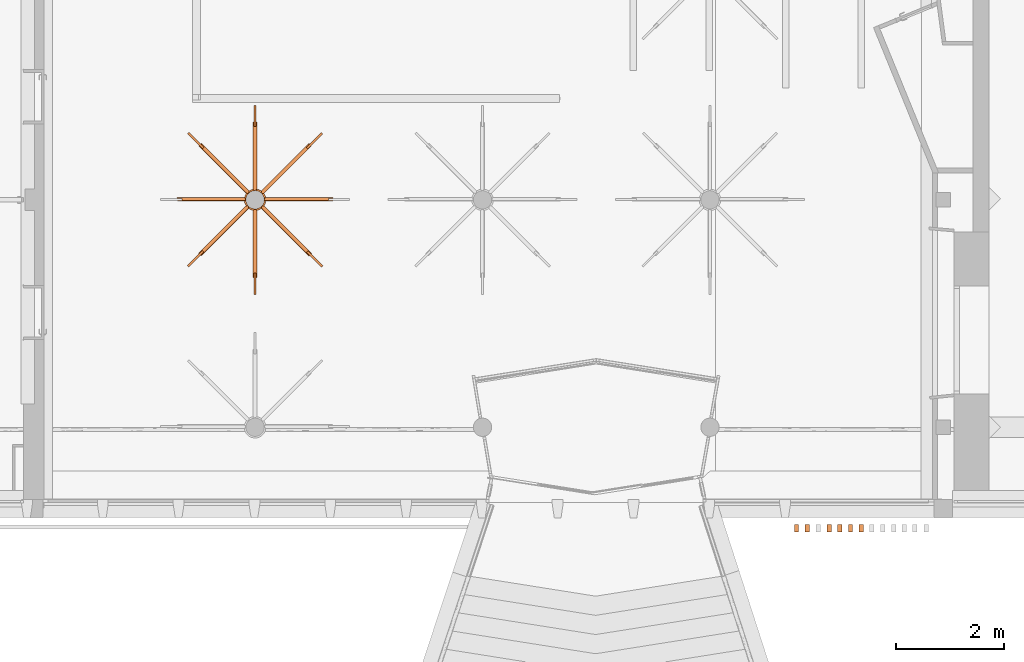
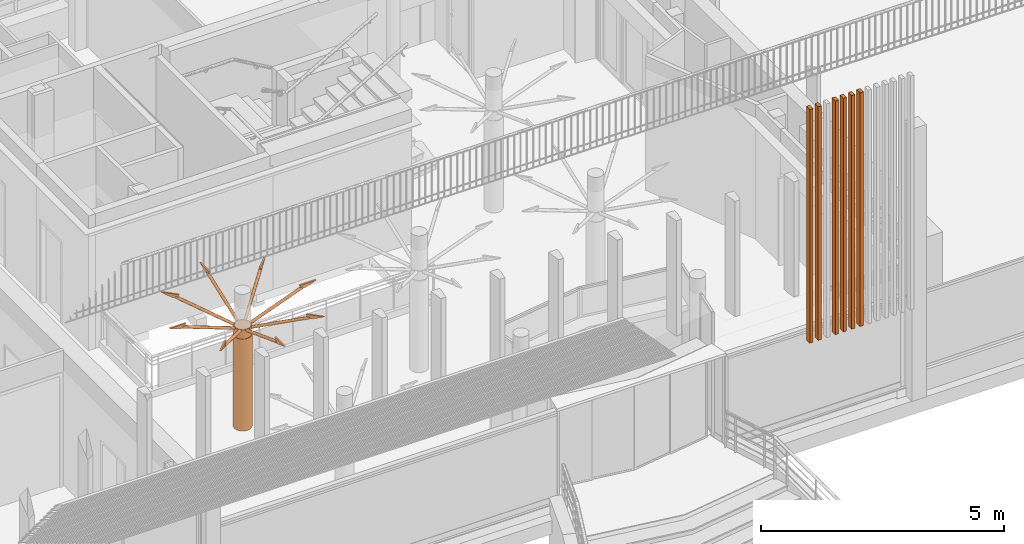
# One storey, part 59 of 65: 7 proxies.
"""IFC4 building model written with IfcOpenShell, lengths in metres."""

from ifc_helpers import new_model, entity, si_unit, converted_unit, derived_unit, direction, frame, origin, place, context, subcontext, project, spatial, indexed_curve, outline, extrude, source, transform, mapped, material, constituent, constituent_set, type_object, type_shapes, element, save


model = new_model("IFC4")

# Units and contexts
model_context = context("Model", 3, precision=1e-05, world=origin(), true_north=direction((6.12303176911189e-17, 1.0)))
body_context = subcontext(model_context, "Body", "Model", "MODEL_VIEW")
ifc_project = project(units=[si_unit("LENGTHUNIT", "METRE"), si_unit("AREAUNIT", "SQUARE_METRE"), si_unit("VOLUMEUNIT", "CUBIC_METRE"), converted_unit("PLANEANGLEUNIT", "DEGREE", entity("IfcRatioMeasure", 0.0174532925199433), si_unit("PLANEANGLEUNIT", "RADIAN"), dimensions=[0, 0, 0, 0, 0, 0, 0]), si_unit("MASSUNIT", "GRAM", prefix="KILO"), derived_unit("MASSDENSITYUNIT", [(si_unit("MASSUNIT", "GRAM", prefix="KILO"), 1), (si_unit("LENGTHUNIT", "METRE"), -3)]), derived_unit("MOMENTOFINERTIAUNIT", [(si_unit("LENGTHUNIT", "METRE"), 4)]), si_unit("TIMEUNIT", "SECOND"), si_unit("FREQUENCYUNIT", "HERTZ"), si_unit("THERMODYNAMICTEMPERATUREUNIT", "DEGREE_CELSIUS"), derived_unit("THERMALTRANSMITTANCEUNIT", [(si_unit("MASSUNIT", "GRAM", prefix="KILO"), 1), (si_unit("THERMODYNAMICTEMPERATUREUNIT", "KELVIN"), -1), (si_unit("TIMEUNIT", "SECOND"), -3)]), derived_unit("VOLUMETRICFLOWRATEUNIT", [(si_unit("LENGTHUNIT", "METRE"), 3), (si_unit("TIMEUNIT", "SECOND"), -1)]), si_unit("ELECTRICCURRENTUNIT", "AMPERE"), si_unit("ELECTRICVOLTAGEUNIT", "VOLT"), si_unit("POWERUNIT", "WATT"), si_unit("FORCEUNIT", "NEWTON", prefix="KILO"), si_unit("ILLUMINANCEUNIT", "LUX"), si_unit("LUMINOUSFLUXUNIT", "LUMEN"), si_unit("LUMINOUSINTENSITYUNIT", "CANDELA"), derived_unit("USERDEFINED", [(si_unit("MASSUNIT", "GRAM", prefix="KILO"), -1), (si_unit("LENGTHUNIT", "METRE"), -2), (si_unit("TIMEUNIT", "SECOND"), 3), (si_unit("LUMINOUSFLUXUNIT", "LUMEN"), 1)]), derived_unit("LINEARVELOCITYUNIT", [(si_unit("LENGTHUNIT", "METRE"), 1), (si_unit("TIMEUNIT", "SECOND"), -1)]), si_unit("PRESSUREUNIT", "PASCAL"), derived_unit("USERDEFINED", [(si_unit("LENGTHUNIT", "METRE"), -2), (si_unit("MASSUNIT", "GRAM", prefix="KILO"), 1), (si_unit("TIMEUNIT", "SECOND"), -2)]), derived_unit("LINEARFORCEUNIT", [(si_unit("MASSUNIT", "GRAM", prefix="KILO"), 1), (si_unit("LENGTHUNIT", "METRE"), 1), (si_unit("TIMEUNIT", "SECOND"), -2), (si_unit("LENGTHUNIT", "METRE"), -1)]), derived_unit("PLANARFORCEUNIT", [(si_unit("MASSUNIT", "GRAM", prefix="KILO"), 1), (si_unit("LENGTHUNIT", "METRE"), 1), (si_unit("TIMEUNIT", "SECOND"), -2), (si_unit("LENGTHUNIT", "METRE"), -2)])], contexts=[model_context])

# Site, building, storey
site_placement = place(None, origin())
site = spatial("IfcSite", under=ifc_project, at=site_placement, Name="Default", CompositionType="ELEMENT")
building_placement = place(site_placement, origin())
building = spatial("IfcBuilding", under=site, at=building_placement, Name="HOTEL CONSULAIRE BOULOGNE SUR MER", CompositionType="ELEMENT")
storey_placement = place(building_placement, origin())
storey = spatial("IfcBuildingStorey", under=building, at=storey_placement, Name="Niveau 0", CompositionType="ELEMENT", Elevation=1.31981936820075e-13)

# Proxies
ifc_material_1 = material(Name="Bronze", Category="Métal")
ifc_constituent_1 = constituent(ifc_material_1, Name="Bronze", Category="Matériaux")
ifc_material_2 = material(Name="Acier, carbone", Category="Métal")
ifc_constituent_2 = constituent(ifc_material_2, Name="Acier, carbone", Category="Matériaux")
ifc_constituent_set = constituent_set(constituents=[ifc_constituent_1, ifc_constituent_2], Name="MaterialConstituentSet")
building_element_proxy_type_1 = type_object("IfcBuildingElementProxyType", Name="Modèles génériques 1:Modèles génériques 1", PredefinedType="NOTDEFINED", material=ifc_material_1)
shared_shape_1 = source(origin(), body_context, "Body", "SweptSolid", [
    extrude(outline(indexed_curve([(-0.277248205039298, -0.059776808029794), (0.115160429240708, -0.059776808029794), (0.0851913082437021, 0.0182954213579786), (0.0431801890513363, 0.00216886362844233), (0.0317934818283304, 0.0318322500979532), (0.00544099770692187, 0.0219587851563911), (-0.00351820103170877, 0.0452982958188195), (-0.277248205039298, -0.059776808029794)], self_intersect=False)), frame((0.713250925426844, 0.701500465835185, 2.99602341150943), z_axis=(-0.70710678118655, 0.707106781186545, 0.0), x_axis=(0.707106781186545, 0.70710678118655, 0.0)), (0.0, 0.0, 1.0), 0.03781952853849),
    extrude(outline(indexed_curve([(0.035, -1.04985600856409e-15), (0.0332869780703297, 0.0108155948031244), (0.028315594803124, 0.0205724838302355), (0.0205724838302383, 0.0283155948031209), (0.0108155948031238, 0.0332869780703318), (1.1197790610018e-15, 0.0350000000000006), (-0.0108155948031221, 0.0332869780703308), (-0.0205724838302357, 0.028315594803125), (-0.0283155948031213, 0.0205724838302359), (-0.0332869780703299, 0.0108155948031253), (-0.0349999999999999, 1.43372394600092e-15), (-0.0332869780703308, -0.0108155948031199), (-0.028315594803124, -0.0205724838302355), (-0.0205724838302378, -0.0283155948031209), (-0.0108155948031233, -0.0332869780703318), (-6.12763902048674e-16, -0.0350000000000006), (0.0108155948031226, -0.0332869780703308), (0.0205724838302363, -0.0283155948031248), (0.0283155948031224, -0.0205724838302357), (0.0332869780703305, -0.0108155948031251), (0.035, -1.04985600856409e-15)], self_intersect=False)), frame((0.728885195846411, 0.739260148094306, 2.98010318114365), z_axis=(0.662156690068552, 0.662156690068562, -0.350851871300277), x_axis=(-0.248089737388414, -0.248089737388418, -0.936430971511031)), (0.0, 0.0, 1.0), 1.32737404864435),
    extrude(outline(indexed_curve([(-0.280255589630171, -0.0435504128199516), (0.0129489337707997, -0.0435504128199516), (0.0129489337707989, -0.0185504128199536), (0.0410894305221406, -0.018324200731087), (0.0410894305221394, 0.0134495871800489), (0.0860894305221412, 0.013449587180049), (0.0860894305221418, 0.0970762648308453), (-0.280255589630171, -0.0435504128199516)], self_intersect=False)), frame((1.7274101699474, 0.277248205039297, 2.99602341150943), z_axis=(1.0, 0.0, 0.0), x_axis=(0.0, 0.933580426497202, -0.358367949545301)), (0.0, 0.0, 1.0), 0.0378195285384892),
    extrude(outline(indexed_curve([(0.0349999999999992, 8.67182975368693e-17), (0.0332869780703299, 0.0108155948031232), (0.0283155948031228, 0.0205724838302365), (0.0205724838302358, 0.0283155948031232), (0.0108155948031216, 0.0332869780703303), (-5.93728164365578e-16, 0.035), (-0.0108155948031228, 0.0332869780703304), (-0.0205724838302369, 0.0283155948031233), (-0.0283155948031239, 0.0205724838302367), (-0.0332869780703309, 0.0108155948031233), (-0.0349999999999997, 1.83998484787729e-16), (-0.0332869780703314, -0.0108155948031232), (-0.0283155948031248, -0.0205724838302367), (-0.0205724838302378, -0.0283155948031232), (-0.0108155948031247, -0.0332869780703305), (-9.27317312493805e-16, -0.0349999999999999), (0.0108155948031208, -0.0332869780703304), (0.0205724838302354, -0.0283155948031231), (0.0283155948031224, -0.0205724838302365), (0.0332869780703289, -0.010815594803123), (0.0349999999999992, 8.67182975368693e-17)], self_intersect=False)), frame((1.74305519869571, 1.5579976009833, 2.51439151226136), z_axis=(0.0, -0.936430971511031, 0.350851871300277), x_axis=(0.0, -0.350851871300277, -0.936430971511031)), (0.0, 0.0, 1.0), 1.32737404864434),
    extrude(outline(indexed_curve([(-0.280255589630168, -0.0435504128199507), (0.0129489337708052, -0.0435504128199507), (0.0129489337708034, -0.0185504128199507), (0.0410894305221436, -0.0183242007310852), (0.0410894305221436, 0.0134495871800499), (0.0860894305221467, 0.0134495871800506), (0.0860894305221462, 0.097076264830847), (-0.280255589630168, -0.0435504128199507)], self_intersect=False)), frame((2.77607438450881, 0.699368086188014, 2.99602341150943), z_axis=(0.707106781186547, 0.707106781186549, 0.0), x_axis=(-0.6601410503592, 0.660141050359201, -0.358367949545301)), (0.0, 0.0, 1.0), 0.03781952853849),
    extrude(outline(indexed_curve([(0.035, -1.04985600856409e-15), (0.033286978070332, 0.0108155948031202), (0.028315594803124, 0.0205724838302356), (0.0205724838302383, 0.028315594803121), (0.0108155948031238, 0.0332869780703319), (1.186400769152e-15, 0.0350000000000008), (-0.0108155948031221, 0.033286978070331), (-0.0205724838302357, 0.028315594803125), (-0.0283155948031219, 0.0205724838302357), (-0.0332869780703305, 0.0108155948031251), (-0.0349999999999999, 1.43372394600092e-15), (-0.0332869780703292, -0.0108155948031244), (-0.0283155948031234, -0.0205724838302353), (-0.0205724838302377, -0.0283155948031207), (-0.0108155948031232, -0.0332869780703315), (-5.45084706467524e-16, -0.0350000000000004), (0.0108155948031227, -0.0332869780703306), (0.0205724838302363, -0.0283155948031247), (0.0283155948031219, -0.0205724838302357), (0.0332869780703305, -0.0108155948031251), (0.035, -1.04985600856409e-15)], self_intersect=False)), frame((1.88151050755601, 1.61605737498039, 2.51439151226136), z_axis=(0.662156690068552, -0.662156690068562, 0.350851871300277), x_axis=(0.248089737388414, -0.248089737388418, -0.936430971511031)), (0.0, 0.0, 1.0), 1.32737404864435),
    extrude(outline(indexed_curve([(-0.277248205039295, -0.0597768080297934), (0.115160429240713, -0.0597768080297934), (0.0851913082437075, 0.0182954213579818), (0.0431801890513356, 0.00216886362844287), (0.031793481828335, 0.0318322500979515), (0.00544099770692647, 0.02195878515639), (-0.00351820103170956, 0.0452982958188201), (-0.277248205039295, -0.0597768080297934)], self_intersect=False)), frame((2.77184292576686, 2.7963210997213, 2.99602341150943), z_axis=(0.707106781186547, -0.707106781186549, 0.0), x_axis=(-0.707106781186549, -0.707106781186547, 0.0)), (0.0, 0.0, 1.0), 0.0378195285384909),
    extrude(outline(indexed_curve([(0.035, 1.16429366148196e-15), (0.03328697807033, 0.0108155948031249), (0.0283155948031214, 0.0205724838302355), (0.0205724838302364, 0.0283155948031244), (0.0108155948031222, 0.0332869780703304), (-1.00451293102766e-15, 0.0350000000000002), (-0.0108155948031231, 0.0332869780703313), (-0.0205724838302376, 0.0283155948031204), (-0.0283155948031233, 0.0205724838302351), (-0.0332869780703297, 0.0108155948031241), (-0.0349999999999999, -1.26052501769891e-15), (-0.03328697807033, -0.0108155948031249), (-0.028315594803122, -0.0205724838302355), (-0.0205724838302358, -0.0283155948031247), (-0.0108155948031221, -0.0332869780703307), (1.10497423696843e-15, -0.0350000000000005), (0.0108155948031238, -0.0332869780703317), (0.0205724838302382, -0.0283155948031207), (0.0283155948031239, -0.0205724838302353), (0.0332869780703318, -0.0108155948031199), (0.035, 1.16429366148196e-15)], self_intersect=False)), frame((1.87727904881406, 1.87963181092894, 2.51439151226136), z_axis=(0.662156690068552, 0.662156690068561, 0.350851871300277), x_axis=(0.248089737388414, 0.248089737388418, -0.936430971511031)), (0.0, 0.0, 1.0), 1.32737404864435),
    extrude(outline(indexed_curve([(-0.277248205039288, -0.0597768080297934), (0.115160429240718, -0.0597768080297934), (0.0851913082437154, 0.0182954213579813), (0.0431801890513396, 0.00216886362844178), (0.0317934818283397, 0.0318322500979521), (0.0054409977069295, 0.0219587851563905), (-0.00351820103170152, 0.045298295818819), (-0.277248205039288, -0.0597768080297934)], self_intersect=False)), frame((1.72741016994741, 3.21418715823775, 2.99602341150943), z_axis=(1.0, 0.0, 0.0), x_axis=(0.0, -1.0, 0.0)), (0.0, 0.0, 1.0), 0.0378195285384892),
    extrude(outline(indexed_curve([(0.0349999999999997, -6.68832189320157e-17), (0.0332869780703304, 0.010815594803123), (0.0283155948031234, 0.0205724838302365), (0.0205724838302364, 0.0283155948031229), (0.0108155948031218, 0.0332869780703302), (6.68779268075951e-17, 0.0349999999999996), (-0.0108155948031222, 0.0332869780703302), (-0.0205724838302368, 0.0283155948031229), (-0.0283155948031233, 0.0205724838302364), (-0.0332869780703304, 0.0108155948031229), (-0.0349999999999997, -2.03833563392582e-16), (-0.0332869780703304, -0.0108155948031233), (-0.0283155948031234, -0.0205724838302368), (-0.0205724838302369, -0.0283155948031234), (-0.0108155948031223, -0.0332869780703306), (-6.68779268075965e-17, -0.0350000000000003), (0.0108155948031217, -0.0332869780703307), (0.0205724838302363, -0.0283155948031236), (0.0283155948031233, -0.0205724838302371), (0.0332869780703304, -0.0108155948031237), (0.0349999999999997, -6.68832189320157e-17)], self_intersect=False)), frame((1.74305519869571, 1.93343776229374, 2.51439151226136), z_axis=(0.0, 0.936430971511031, 0.350851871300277), x_axis=(0.0, 0.350851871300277, -0.936430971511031)), (0.0, 0.0, 1.0), 1.32737404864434),
    extrude(outline(indexed_curve([(-0.277248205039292, -0.059776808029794), (0.115160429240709, -0.059776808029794), (0.0851913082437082, 0.0182954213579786), (0.0431801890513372, 0.00216886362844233), (0.0317934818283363, 0.0318322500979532), (0.005440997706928, 0.0219587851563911), (-0.00351820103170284, 0.0452982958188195), (-0.277248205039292, -0.059776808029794)], self_intersect=False)), frame((0.694971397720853, 2.77170009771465, 2.99602341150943), z_axis=(0.707106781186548, 0.707106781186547, 0.0), x_axis=(0.707106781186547, -0.707106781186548, 0.0)), (0.0, 0.0, 1.0), 0.0378195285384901),
    extrude(outline(indexed_curve([(0.0349999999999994, -1.22011148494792e-15), (0.0332869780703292, 0.0108155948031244), (0.028315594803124, 0.0205724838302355), (0.0205724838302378, 0.0283155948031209), (0.0108155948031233, 0.0332869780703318), (5.94786615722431e-16, 0.0350000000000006), (-0.0108155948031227, 0.0332869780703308), (-0.0205724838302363, 0.0283155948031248), (-0.0283155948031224, 0.0205724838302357), (-0.0332869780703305, 0.0108155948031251), (-0.0350000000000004, 1.22011148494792e-15), (-0.0332869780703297, -0.0108155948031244), (-0.0283155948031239, -0.0205724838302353), (-0.0205724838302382, -0.0283155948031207), (-0.0108155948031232, -0.0332869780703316), (-1.10180177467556e-15, -0.0350000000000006), (0.0108155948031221, -0.0332869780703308), (0.0205724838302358, -0.0283155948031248), (0.0283155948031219, -0.0205724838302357), (0.03328697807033, -0.0108155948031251), (0.0349999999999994, -1.22011148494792e-15)], self_intersect=False)), frame((1.6162777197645, 1.88175325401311, 2.51439151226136), z_axis=(-0.662156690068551, 0.662156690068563, 0.350851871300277), x_axis=(-0.248089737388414, 0.248089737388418, -0.936430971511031)), (0.0, 0.0, 1.0), 1.32737404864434),
    extrude(outline(indexed_curve([(-0.280255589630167, -0.0435504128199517), (0.0129489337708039, -0.0435504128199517), (0.0129489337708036, -0.0185504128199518), (0.0410894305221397, -0.0183242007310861), (0.0410894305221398, 0.013449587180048), (0.0860894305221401, 0.0134495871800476), (0.0860894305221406, 0.0970762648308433), (-0.280255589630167, -0.0435504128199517)], self_intersect=False)), frame((3.21418736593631, 1.73554318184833, 2.99602341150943), z_axis=(0.0, 1.0, 0.0), x_axis=(-0.933580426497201, 0.0, -0.358367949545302)), (0.0, 0.0, 1.0), 0.0378195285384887),
    extrude(outline(indexed_curve([(0.0349999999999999, -4.16541532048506e-17), (0.0332869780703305, 0.0108155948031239), (0.0283155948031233, 0.0205724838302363), (0.0205724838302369, 0.0283155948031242), (0.0108155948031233, 0.0332869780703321), (-5.83659163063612e-18, 0.0350000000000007), (-0.0108155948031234, 0.0332869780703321), (-0.0205724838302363, 0.0283155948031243), (-0.0283155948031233, 0.0205724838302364), (-0.0332869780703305, 0.0108155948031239), (-0.0349999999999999, 4.16541532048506e-17), (-0.0332869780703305, -0.0108155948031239), (-0.0283155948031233, -0.0205724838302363), (-0.0205724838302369, -0.0283155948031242), (-0.0108155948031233, -0.0332869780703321), (5.83659163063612e-18, -0.0350000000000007), (0.0108155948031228, -0.0332869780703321), (0.0205724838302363, -0.0283155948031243), (0.0283155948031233, -0.0205724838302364), (0.0332869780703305, -0.0108155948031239), (0.0349999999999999, -4.16541532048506e-17)], self_intersect=False)), frame((1.93343796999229, 1.75771768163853, 2.51439151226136), z_axis=(0.936430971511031, 0.0, 0.350851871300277), x_axis=(0.350851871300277, 0.0, -0.936430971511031)), (0.0, 0.0, 1.0), 1.32737404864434),
    extrude(outline(indexed_curve([(-0.277248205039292, -0.059776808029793), (0.115160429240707, -0.059776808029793), (0.0851913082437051, 0.0182954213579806), (0.0431801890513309, 0.00216886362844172), (0.0317934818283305, 0.0318322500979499), (0.00544099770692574, 0.0219587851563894), (-0.00351820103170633, 0.0452982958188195), (-0.277248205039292, -0.059776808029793)], self_intersect=False)), frame((0.277248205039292, 1.73554318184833, 2.99602341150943), z_axis=(0.0, 1.0, 0.0), x_axis=(1.0, 0.0, 0.0)), (0.0, 0.0, 1.0), 0.0378195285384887),
    extrude(outline(indexed_curve([(0.0349999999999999, 4.16541532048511e-17), (0.0332869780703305, 0.0108155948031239), (0.0283155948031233, 0.0205724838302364), (0.0205724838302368, 0.0283155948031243), (0.0108155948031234, 0.0332869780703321), (5.33273364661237e-17, 0.0350000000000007), (-0.0108155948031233, 0.0332869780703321), (-0.0205724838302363, 0.0283155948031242), (-0.0283155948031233, 0.0205724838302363), (-0.0332869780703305, 0.0108155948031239), (-0.0349999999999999, -4.16541532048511e-17), (-0.0332869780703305, -0.0108155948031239), (-0.0283155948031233, -0.0205724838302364), (-0.0205724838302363, -0.0283155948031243), (-0.0108155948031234, -0.0332869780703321), (4.16541532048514e-17, -0.0350000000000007), (0.0108155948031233, -0.0332869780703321), (0.0205724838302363, -0.0283155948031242), (0.0283155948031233, -0.0205724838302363), (0.0332869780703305, -0.0108155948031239), (0.0349999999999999, 4.16541532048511e-17)], self_intersect=False)), frame((1.55799760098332, 1.75771768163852, 2.51439151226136), z_axis=(-0.936430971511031, 0.0, 0.350851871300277), x_axis=(-0.350851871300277, 0.0, -0.936430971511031)), (0.0, 0.0, 1.0), 1.32737404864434),
    extrude(outline(indexed_curve([(0.199999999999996, 0.0), (0.190211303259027, 0.0618033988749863), (0.161803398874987, 0.11755705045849), (0.117557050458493, 0.161803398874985), (0.0618033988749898, 0.190211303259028), (2.16573425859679e-15, 0.199999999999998), (-0.0618033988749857, 0.190211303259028), (-0.11755705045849, 0.16180339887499), (-0.161803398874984, 0.117557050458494), (-0.190211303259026, 0.0618033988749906), (-0.199999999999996, 4.33146851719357e-15), (-0.190211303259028, -0.0618033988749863), (-0.161803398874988, -0.11755705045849), (-0.117557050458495, -0.161803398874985), (-0.0618033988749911, -0.190211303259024), (-2.97788460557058e-15, -0.199999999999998), (0.0618033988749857, -0.190211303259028), (0.11755705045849, -0.161803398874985), (0.161803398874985, -0.117557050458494), (0.190211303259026, -0.0618033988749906), (0.199999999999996, 0.0)], self_intersect=False), holes=[indexed_curve([(-0.169999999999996, 0.0), (-0.161679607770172, 0.0525328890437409), (-0.137532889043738, 0.0999234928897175), (-0.0999234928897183, 0.137532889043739), (-0.0525328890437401, 0.161679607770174), (-5.41433564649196e-16, 0.169999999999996), (0.0525328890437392, 0.161679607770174), (0.0999234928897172, 0.137532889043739), (0.137532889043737, 0.0999234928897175), (0.161679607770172, 0.0525328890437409), (0.169999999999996, 0.0), (0.161679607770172, -0.0525328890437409), (0.137532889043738, -0.0999234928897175), (0.0999234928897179, -0.137532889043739), (0.0525328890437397, -0.161679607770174), (0.0, -0.169999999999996), (-0.0525328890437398, -0.161679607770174), (-0.0999234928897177, -0.137532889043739), (-0.137532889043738, -0.0999234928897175), (-0.161679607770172, -0.0525328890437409), (-0.169999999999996, 0.0)], self_intersect=False)]), frame((1.74571778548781, 1.74571768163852, 2.46815840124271)), (0.0, 0.0, 1.0), 0.073394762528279),
    extrude(outline(indexed_curve([(-0.184999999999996, 0.0), (-0.175945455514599, -0.0571681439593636), (-0.149668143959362, -0.108740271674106), (-0.108740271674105, -0.14966814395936), (-0.0571681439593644, -0.175945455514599), (-8.12150346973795e-16, -0.184999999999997), (0.0571681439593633, -0.175945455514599), (0.108740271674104, -0.149668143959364), (0.149668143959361, -0.108740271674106), (0.175945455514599, -0.0571681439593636), (0.184999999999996, 0.0), (0.175945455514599, 0.0571681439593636), (0.149668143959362, 0.108740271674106), (0.108740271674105, 0.14966814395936), (0.057168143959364, 0.175945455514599), (0.0, 0.184999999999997), (-0.0571681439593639, 0.175945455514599), (-0.108740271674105, 0.14966814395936), (-0.149668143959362, 0.108740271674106), (-0.175945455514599, 0.0571681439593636), (-0.184999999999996, 0.0)], self_intersect=False), holes=[indexed_curve([(0.169999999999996, 0.0), (0.161679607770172, -0.0525328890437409), (0.137532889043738, -0.0999234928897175), (0.0999234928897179, -0.137532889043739), (0.0525328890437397, -0.161679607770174), (0.0, -0.169999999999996), (-0.0525328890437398, -0.161679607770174), (-0.0999234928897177, -0.137532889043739), (-0.137532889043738, -0.0999234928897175), (-0.161679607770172, -0.0525328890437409), (-0.169999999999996, 0.0), (-0.161679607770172, 0.0525328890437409), (-0.137532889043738, 0.0999234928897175), (-0.0999234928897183, 0.137532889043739), (-0.0525328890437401, 0.161679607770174), (-5.41433564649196e-16, 0.169999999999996), (0.0525328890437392, 0.161679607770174), (0.0999234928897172, 0.137532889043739), (0.137532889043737, 0.0999234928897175), (0.161679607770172, 0.0525328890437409), (0.169999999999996, 0.0)], self_intersect=False)]), frame((1.74571778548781, 1.74571768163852, 2.31091744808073)), (0.0, 0.0, 1.0), 0.15724095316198),
    extrude(outline(indexed_curve([(0.199999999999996, 0.0), (0.190211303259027, 0.0618033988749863), (0.161803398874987, 0.11755705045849), (0.117557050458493, 0.161803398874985), (0.0618033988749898, 0.190211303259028), (2.16573425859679e-15, 0.199999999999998), (-0.0618033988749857, 0.190211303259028), (-0.11755705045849, 0.16180339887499), (-0.161803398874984, 0.117557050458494), (-0.190211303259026, 0.0618033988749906), (-0.199999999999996, 4.33146851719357e-15), (-0.190211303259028, -0.0618033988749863), (-0.161803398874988, -0.11755705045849), (-0.117557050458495, -0.161803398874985), (-0.0618033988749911, -0.190211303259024), (-2.97788460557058e-15, -0.199999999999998), (0.0618033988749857, -0.190211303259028), (0.11755705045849, -0.161803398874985), (0.161803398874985, -0.117557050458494), (0.190211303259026, -0.0618033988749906), (0.199999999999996, 0.0)], self_intersect=False), holes=[indexed_curve([(-0.169999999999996, 0.0), (-0.161679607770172, 0.0525328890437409), (-0.137532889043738, 0.0999234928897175), (-0.0999234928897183, 0.137532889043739), (-0.0525328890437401, 0.161679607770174), (-5.41433564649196e-16, 0.169999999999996), (0.0525328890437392, 0.161679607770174), (0.0999234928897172, 0.137532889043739), (0.137532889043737, 0.0999234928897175), (0.161679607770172, 0.0525328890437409), (0.169999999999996, 0.0), (0.161679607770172, -0.0525328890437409), (0.137532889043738, -0.0999234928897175), (0.0999234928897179, -0.137532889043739), (0.0525328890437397, -0.161679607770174), (0.0, -0.169999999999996), (-0.0525328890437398, -0.161679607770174), (-0.0999234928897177, -0.137532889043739), (-0.137532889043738, -0.0999234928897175), (-0.161679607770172, -0.0525328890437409), (-0.169999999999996, 0.0)], self_intersect=False)]), frame((1.74571778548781, 1.74571768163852, 0.0)), (0.0, 0.0, 1.0), 2.31091744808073),
])
type_shapes(building_element_proxy_type_1, [shared_shape_1])
proxy_1_placement = place(storey_placement, frame((-2.97454101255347, -25.7616274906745, 0.0)))
element("IfcBuildingElementProxy", 1, at=proxy_1_placement, inside=storey, type_object=building_element_proxy_type_1, material=ifc_constituent_set, Name="Modèles génériques 1:Modèles génériques 1", ObjectType="Modèles génériques 1:Modèles génériques 1", PredefinedType="NOTDEFINED", context=body_context, shape_type="MappedRepresentation", body=[
    mapped(shared_shape_1, transform((0.0, 0.0, 0.0), scale=1.0)),
])
ifc_material_3 = material(Name="alu finifion bleu")
building_element_proxy_type_2 = type_object("IfcBuildingElementProxyType", Name="Elements de façade6:Elements de façade", PredefinedType="NOTDEFINED", material=ifc_material_3)
shared_shape_2 = source(origin(), body_context, "Body", "SweptSolid", [
    extrude(outline(indexed_curve([(-0.068901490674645, -0.0402906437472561), (0.0689014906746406, -0.0402906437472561), (0.0689014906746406, 0.0402906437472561), (-0.068901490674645, 0.0402906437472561), (-0.068901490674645, -0.0402906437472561)], self_intersect=False)), frame((0.0402906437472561, 0.0689014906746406, 0.0), z_axis=(0.0, 0.0, 1.0), x_axis=(0.0, 1.0, 0.0)), (0.0, 0.0, 1.0), 5.87944355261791),
])
type_shapes(building_element_proxy_type_2, [shared_shape_2])
proxy_2_placement = place(storey_placement, frame((9.9247575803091, -30.1470920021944, 2.30326010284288)))
element("IfcBuildingElementProxy", 2, at=proxy_2_placement, inside=storey, type_object=building_element_proxy_type_2, material=ifc_material_3, Name="Elements de façade6:Elements de façade", ObjectType="Elements de façade6:Elements de façade", PredefinedType="NOTDEFINED", context=body_context, shape_type="MappedRepresentation", body=[
    mapped(shared_shape_2, transform((0.0, 0.0, 0.0), scale=1.0)),
])
building_element_proxy_type_3 = type_object("IfcBuildingElementProxyType", Name="Elements de façade7:Elements de façade", PredefinedType="NOTDEFINED", material=ifc_material_3)
shared_shape_3 = source(origin(), body_context, "Body", "SweptSolid", [
    extrude(outline(indexed_curve([(-0.068901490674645, -0.0402906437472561), (0.0689014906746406, -0.0402906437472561), (0.0689014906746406, 0.0402906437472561), (-0.068901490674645, 0.0402906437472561), (-0.068901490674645, -0.0402906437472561)], self_intersect=False)), frame((0.0402906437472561, 0.0689014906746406, 0.0), z_axis=(0.0, 0.0, 1.0), x_axis=(0.0, 1.0, 0.0)), (0.0, 0.0, 1.0), 5.87944355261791),
])
type_shapes(building_element_proxy_type_3, [shared_shape_3])
proxy_3_placement = place(storey_placement, frame((9.7257575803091, -30.1470920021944, 2.30326010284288)))
element("IfcBuildingElementProxy", 3, at=proxy_3_placement, inside=storey, type_object=building_element_proxy_type_3, material=ifc_material_3, Name="Elements de façade7:Elements de façade", ObjectType="Elements de façade7:Elements de façade", PredefinedType="NOTDEFINED", context=body_context, shape_type="MappedRepresentation", body=[
    mapped(shared_shape_3, transform((0.0, 0.0, 0.0), scale=1.0)),
])
building_element_proxy_type_4 = type_object("IfcBuildingElementProxyType", Name="Elements de façade8:Elements de façade", PredefinedType="NOTDEFINED", material=ifc_material_3)
shared_shape_4 = source(origin(), body_context, "Body", "SweptSolid", [
    extrude(outline(indexed_curve([(-0.068901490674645, -0.0402906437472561), (0.0689014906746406, -0.0402906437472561), (0.0689014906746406, 0.0402906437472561), (-0.068901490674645, 0.0402906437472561), (-0.068901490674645, -0.0402906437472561)], self_intersect=False)), frame((0.0402906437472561, 0.0689014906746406, 0.0), z_axis=(0.0, 0.0, 1.0), x_axis=(0.0, 1.0, 0.0)), (0.0, 0.0, 1.0), 5.87944355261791),
])
type_shapes(building_element_proxy_type_4, [shared_shape_4])
proxy_4_placement = place(storey_placement, frame((9.52624278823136, -30.1470920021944, 2.30326010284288)))
element("IfcBuildingElementProxy", 4, at=proxy_4_placement, inside=storey, type_object=building_element_proxy_type_4, material=ifc_material_3, Name="Elements de façade8:Elements de façade", ObjectType="Elements de façade8:Elements de façade", PredefinedType="NOTDEFINED", context=body_context, shape_type="MappedRepresentation", body=[
    mapped(shared_shape_4, transform((0.0, 0.0, 0.0), scale=1.0)),
])
building_element_proxy_type_5 = type_object("IfcBuildingElementProxyType", Name="Elements de façade9:Elements de façade", PredefinedType="NOTDEFINED", material=ifc_material_3)
shared_shape_5 = source(origin(), body_context, "Body", "SweptSolid", [
    extrude(outline(indexed_curve([(-0.068901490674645, -0.0402906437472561), (0.0689014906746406, -0.0402906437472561), (0.0689014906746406, 0.0402906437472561), (-0.068901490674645, 0.0402906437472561), (-0.068901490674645, -0.0402906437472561)], self_intersect=False)), frame((0.0402906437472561, 0.0689014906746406, 0.0), z_axis=(0.0, 0.0, 1.0), x_axis=(0.0, 1.0, 0.0)), (0.0, 0.0, 1.0), 5.87944355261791),
])
type_shapes(building_element_proxy_type_5, [shared_shape_5])
proxy_5_placement = place(storey_placement, frame((9.33562199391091, -30.1470920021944, 2.30326010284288)))
element("IfcBuildingElementProxy", 5, at=proxy_5_placement, inside=storey, type_object=building_element_proxy_type_5, material=ifc_material_3, Name="Elements de façade9:Elements de façade", ObjectType="Elements de façade9:Elements de façade", PredefinedType="NOTDEFINED", context=body_context, shape_type="MappedRepresentation", body=[
    mapped(shared_shape_5, transform((0.0, 0.0, 0.0), scale=1.0)),
])
building_element_proxy_type_6 = type_object("IfcBuildingElementProxyType", Name="Elements de façade11:Elements de façade", PredefinedType="NOTDEFINED", material=ifc_material_3)
shared_shape_6 = source(origin(), body_context, "Body", "SweptSolid", [
    extrude(outline(indexed_curve([(-0.068901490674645, -0.0402906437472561), (0.0689014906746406, -0.0402906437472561), (0.0689014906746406, 0.0402906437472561), (-0.068901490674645, 0.0402906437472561), (-0.068901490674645, -0.0402906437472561)], self_intersect=False)), frame((0.0402906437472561, 0.0689014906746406, 0.0), z_axis=(0.0, 0.0, 1.0), x_axis=(0.0, 1.0, 0.0)), (0.0, 0.0, 1.0), 5.87944355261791),
])
type_shapes(building_element_proxy_type_6, [shared_shape_6])
proxy_6_placement = place(storey_placement, frame((8.92990154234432, -30.1470920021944, 2.30326010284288)))
element("IfcBuildingElementProxy", 6, at=proxy_6_placement, inside=storey, type_object=building_element_proxy_type_6, material=ifc_material_3, Name="Elements de façade11:Elements de façade", ObjectType="Elements de façade11:Elements de façade", PredefinedType="NOTDEFINED", context=body_context, shape_type="MappedRepresentation", body=[
    mapped(shared_shape_6, transform((0.0, 0.0, 0.0), scale=1.0)),
])
building_element_proxy_type_7 = type_object("IfcBuildingElementProxyType", Name="Elements de façade12:Elements de façade", PredefinedType="NOTDEFINED", material=ifc_material_3)
shared_shape_7 = source(origin(), body_context, "Body", "SweptSolid", [
    extrude(outline(indexed_curve([(-0.068901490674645, -0.0402906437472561), (0.0689014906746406, -0.0402906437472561), (0.0689014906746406, 0.0402906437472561), (-0.068901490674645, 0.0402906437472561), (-0.068901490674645, -0.0402906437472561)], self_intersect=False)), frame((0.0402906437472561, 0.0689014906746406, 0.0), z_axis=(0.0, 0.0, 1.0), x_axis=(0.0, 1.0, 0.0)), (0.0, 0.0, 1.0), 5.87944355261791),
])
type_shapes(building_element_proxy_type_7, [shared_shape_7])
proxy_7_placement = place(storey_placement, frame((8.72823689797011, -30.1470920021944, 2.30326010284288)))
element("IfcBuildingElementProxy", 7, at=proxy_7_placement, inside=storey, type_object=building_element_proxy_type_7, material=ifc_material_3, Name="Elements de façade12:Elements de façade", ObjectType="Elements de façade12:Elements de façade", PredefinedType="NOTDEFINED", context=body_context, shape_type="MappedRepresentation", body=[
    mapped(shared_shape_7, transform((0.0, 0.0, 0.0), scale=1.0)),
])

save(model, "model.ifc")
